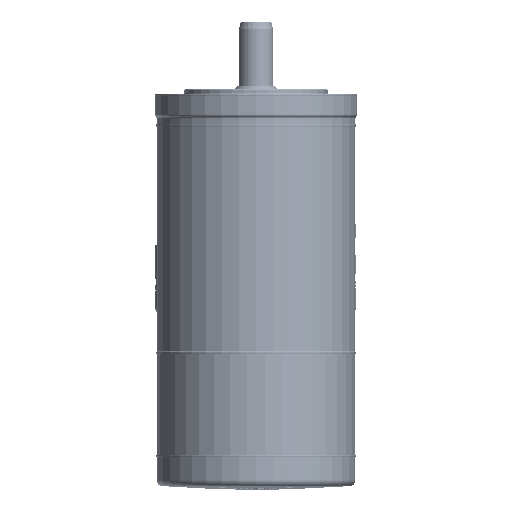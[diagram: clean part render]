
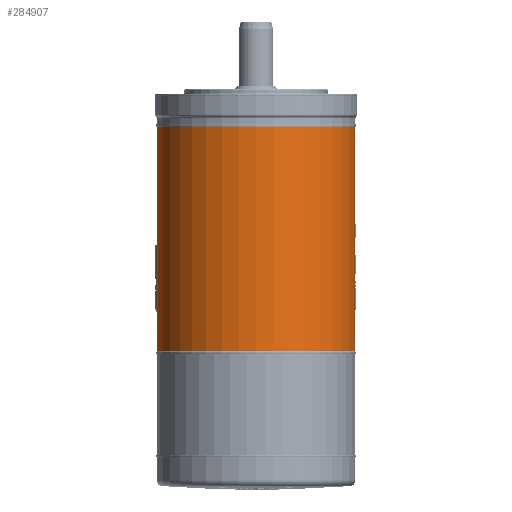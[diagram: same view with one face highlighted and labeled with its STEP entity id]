
A CAD part, front view. The second image highlights one B-rep face of the part: STEP entity #284907.
In plain terms, the highlighted cylindrical face has radius 55.5 mm (diameter 111 mm), a partial arc.
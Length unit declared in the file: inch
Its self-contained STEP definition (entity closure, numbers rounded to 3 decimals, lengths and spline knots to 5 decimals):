
#12375 = CARTESIAN_POINT ( 'NONE',  ( 2.18504, 0., -5.672 ) ) ;
#16437 = ORIENTED_EDGE ( 'NONE', *, *, #171891, .F. ) ;
#40670 = CARTESIAN_POINT ( 'NONE',  ( -2.18504, 0., -0.728 ) ) ;
#41551 = CARTESIAN_POINT ( 'NONE',  ( 2.18504, 0., -0.728 ) ) ;
#60855 = CARTESIAN_POINT ( 'NONE',  ( -2.18504, 0., -5.672 ) ) ;
#65070 = ORIENTED_EDGE ( 'NONE', *, *, #272932, .T. ) ;
#100493 = LINE ( 'NONE', #177580, #306209 ) ;
#107789 = DIRECTION ( 'NONE',  ( 1., 0., 0. ) ) ;
#138619 = ORIENTED_EDGE ( 'NONE', *, *, #248549, .F. ) ;
#153251 = AXIS2_PLACEMENT_3D ( 'NONE', #261406, #162494, #286560 ) ;
#161574 = DIRECTION ( 'NONE',  ( 0., 0., 1. ) ) ;
#162494 = DIRECTION ( 'NONE',  ( 0., 0., 1. ) ) ;
#164136 = VERTEX_POINT ( 'NONE', #12375 ) ;
#171891 = EDGE_CURVE ( 'NONE', #307475, #313407, #176543, .T. ) ;
#172209 = VERTEX_POINT ( 'NONE', #60855 ) ;
#176543 = CIRCLE ( 'NONE', #240717, 2.18504 ) ;
#177580 = CARTESIAN_POINT ( 'NONE',  ( 2.18504, 0., 0.19342 ) ) ;
#212676 = AXIS2_PLACEMENT_3D ( 'NONE', #236502, #305319, #229875 ) ;
#217762 = FACE_OUTER_BOUND ( 'NONE', #307397, .T. ) ;
#224655 = ORIENTED_EDGE ( 'NONE', *, *, #309626, .T. ) ;
#229875 = DIRECTION ( 'NONE',  ( 1., 0., 0. ) ) ;
#233562 = CARTESIAN_POINT ( 'NONE',  ( 0., 0., -0.728 ) ) ;
#236502 = CARTESIAN_POINT ( 'NONE',  ( 0., 0., -5.672 ) ) ;
#237021 = LINE ( 'NONE', #314109, #244491 ) ;
#240717 = AXIS2_PLACEMENT_3D ( 'NONE', #233562, #305679, #107789 ) ;
#244491 = VECTOR ( 'NONE', #161574, 39.37008 ) ;
#248549 = EDGE_CURVE ( 'NONE', #172209, #307475, #237021, .T. ) ;
#249782 = DIRECTION ( 'NONE',  ( 0., 0., 1. ) ) ;
#261406 = CARTESIAN_POINT ( 'NONE',  ( 0., 0., 0.19342 ) ) ;
#266404 = CYLINDRICAL_SURFACE ( 'NONE', #153251, 2.18504 ) ;
#272932 = EDGE_CURVE ( 'NONE', #164136, #313407, #100493, .T. ) ;
#284907 = ADVANCED_FACE ( 'NONE', ( #217762 ), #266404, .T. ) ;
#286560 = DIRECTION ( 'NONE',  ( 1., 0., 0. ) ) ;
#305319 = DIRECTION ( 'NONE',  ( 0., 0., 1. ) ) ;
#305679 = DIRECTION ( 'NONE',  ( 0., 0., 1. ) ) ;
#306209 = VECTOR ( 'NONE', #249782, 39.37008 ) ;
#307397 = EDGE_LOOP ( 'NONE', ( #138619, #224655, #65070, #16437 ) ) ;
#307475 = VERTEX_POINT ( 'NONE', #40670 ) ;
#309626 = EDGE_CURVE ( 'NONE', #172209, #164136, #325156, .T. ) ;
#313407 = VERTEX_POINT ( 'NONE', #41551 ) ;
#314109 = CARTESIAN_POINT ( 'NONE',  ( -2.18504, 0., 0.19342 ) ) ;
#325156 = CIRCLE ( 'NONE', #212676, 2.18504 ) ;
